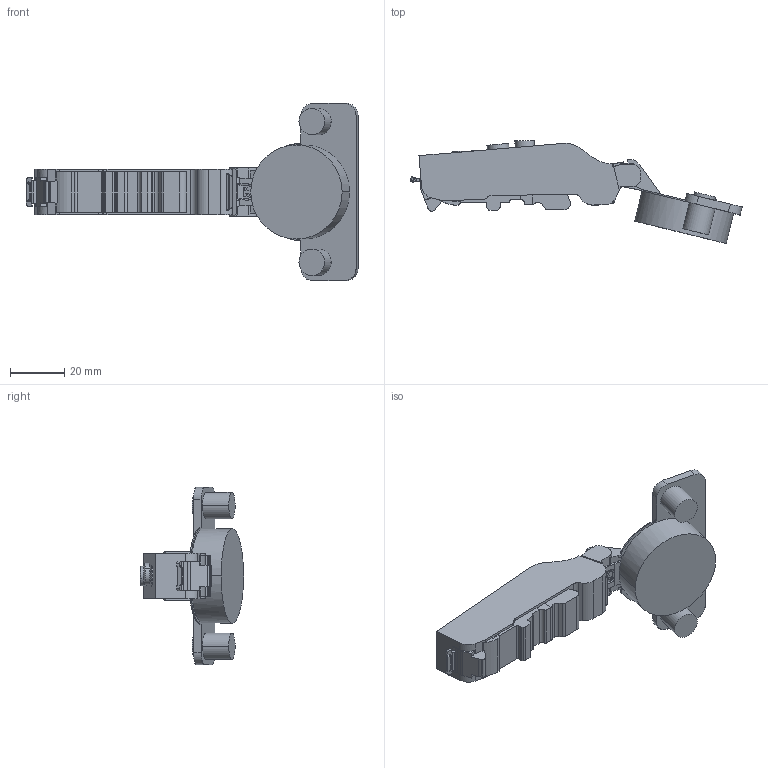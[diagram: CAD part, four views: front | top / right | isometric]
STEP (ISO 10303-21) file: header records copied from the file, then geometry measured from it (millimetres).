
FILE_DESCRIPTION (( 'STEP AP203' ), '1' );
FILE_NAME ('C81A877T0FAB DTC 3D OPEN.STEP', '2024-07-24T03:19:33', ( '微软用户' ), ( '微软中国' ), 'SwSTEP 2.0', 'SolidWorks 2021', '' );
FILE_SCHEMA (( 'CONFIG_CONTROL_DESIGN' ));
Length unit declared in the file: millimetre
Products named in the file (1): C81A877T0FAB DTC 3D OPEN
Bounding box: 122.83 x 38.13 x 65.6 mm (x, y, z)
Volume: 42926.9 mm3; surface area: 13215.3 mm2
Topology: 1 solids, 2 shells, 487 faces, 1366 edges, 891 vertices
Faces by surface type: plane 240, cylinder 177, torus 34, bspline 24, cone 8, sphere 4
Entity records: 16825 total; most frequent: CARTESIAN_POINT 4433, ORIENTED_EDGE 2732, DIRECTION 2461, EDGE_CURVE 1366, VERTEX_POINT 891, AXIS2_PLACEMENT_3D 854, LINE 753, VECTOR 753
